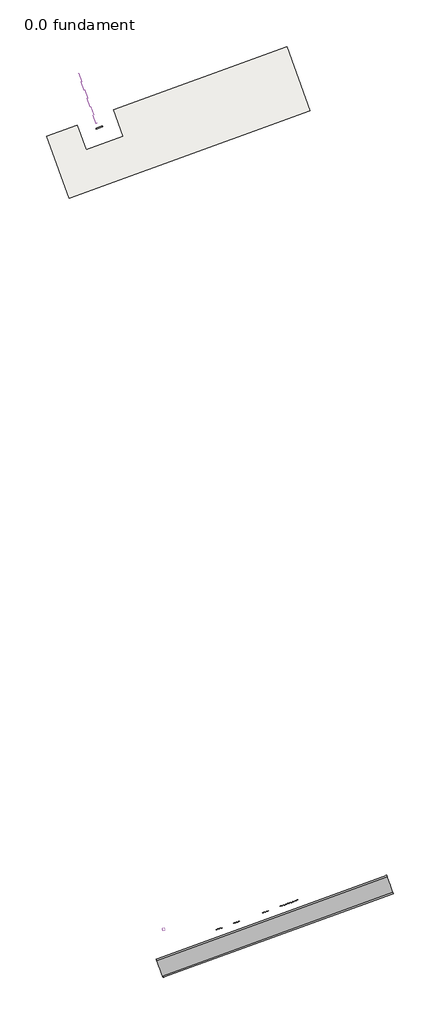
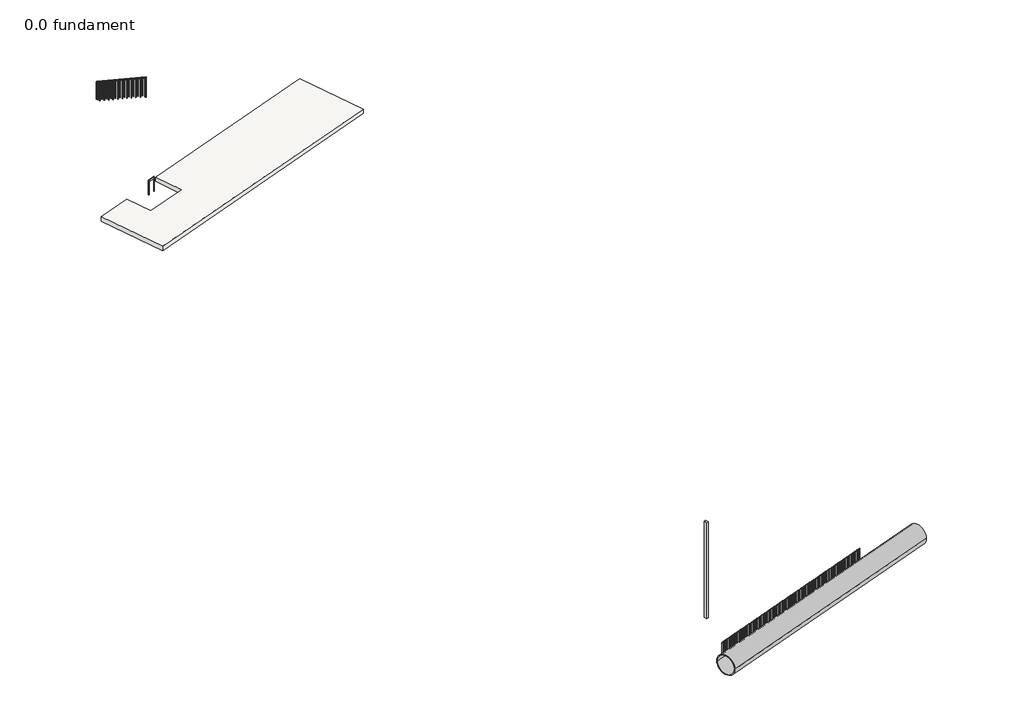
# One storey: 28 dampers, 2 railings, 1 slab, 1 valve, 1 wall.
"""IFC4 building model written with IfcOpenShell, lengths in millimetres."""

from ifc_helpers import new_model, si_unit, frame, origin, place, context, project, spatial, polyline, outline, extrude, faceted_brep, transform, mapped, element, save
from components import damper_041ec83c, railing_1100mm_exotic_green_232f5d4f, railing_2_3b7484bf, valve_04df82be

model = new_model("IFC4")

# Units and contexts
model_context = context("Model", 3, world=origin())
ifc_project = project(units=[si_unit("LENGTHUNIT", "METRE", prefix="MILLI")], contexts=[model_context])

# Site, building, storey
site = spatial("IfcSite", under=ifc_project)
building = spatial("IfcBuilding", under=site)
storey = spatial("IfcBuildingStorey", under=building, Name="0.0 fundament", Elevation=0.0)

# Dampers
placement = place(None, origin())
damper_shape = damper_041ec83c(model_context)
element("IfcDamper", 1, ObjectType="Spunt : Spunt", at=placement, inside=storey, context=model_context, shape_type="MappedRepresentation", body=[
    mapped(damper_shape, transform((68.4040287, -187.9385242, 0.0), x_axis=(1.0, 0.0, 0.0), y_axis=(0.0, 1.0, 0.0), z_axis=(0.0, 0.0, 1.0))),
])
element("IfcDamper", 2, ObjectType="Spunt1 : Spunt", at=placement, inside=storey, context=model_context, shape_type="MappedRepresentation", body=[
    mapped(damper_shape, transform((82954.9436784, -82568.9824304, 0.0), x_axis=(-1.0, 0.0, 0.0), y_axis=(0.0, -1.0, 0.0), z_axis=(0.0, 0.0, 1.0))),
])
element("IfcDamper", 3, ObjectType="Spunt2 : Spunt", at=placement, inside=storey, context=model_context, shape_type="MappedRepresentation", body=[
    mapped(damper_shape, transform((814.1529247, 83.4918762, 0.0), x_axis=(1.0, 0.0, 0.0), y_axis=(0.0, 1.0, 0.0), z_axis=(0.0, 0.0, 1.0))),
])
element("IfcDamper", 4, ObjectType="Spunt3 : Spunt", at=placement, inside=storey, context=model_context, shape_type="MappedRepresentation", body=[
    mapped(damper_shape, transform((83700.6925744, -82297.55203, 0.0), x_axis=(-1.0, 0.0, 0.0), y_axis=(0.0, -1.0, 0.0), z_axis=(0.0, 0.0, 1.0))),
])
element("IfcDamper", 5, ObjectType="Spunt4 : Spunt", at=placement, inside=storey, context=model_context, shape_type="MappedRepresentation", body=[
    mapped(damper_shape, transform((1551.811632, 351.9776888, 0.0), x_axis=(1.0, 0.0, 0.0), y_axis=(0.0, 1.0, 0.0), z_axis=(0.0, 0.0, 1.0))),
])
element("IfcDamper", 6, ObjectType="Spunt5 : Spunt", at=placement, inside=storey, context=model_context, shape_type="MappedRepresentation", body=[
    mapped(damper_shape, transform((84438.3512817, -82029.0662174, 0.0), x_axis=(-1.0, 0.0, 0.0), y_axis=(0.0, -1.0, 0.0), z_axis=(0.0, 0.0, 1.0))),
])
element("IfcDamper", 7, ObjectType="Spunt6 : Spunt", at=placement, inside=storey, context=model_context, shape_type="MappedRepresentation", body=[
    mapped(damper_shape, transform((2297.5605281, 623.4080892, 0.0), x_axis=(1.0, 0.0, 0.0), y_axis=(0.0, 1.0, 0.0), z_axis=(0.0, 0.0, 1.0))),
])
element("IfcDamper", 8, ObjectType="Spunt7 : Spunt", at=placement, inside=storey, context=model_context, shape_type="MappedRepresentation", body=[
    mapped(damper_shape, transform((85184.1001778, -81757.635817, 0.0), x_axis=(-1.0, 0.0, 0.0), y_axis=(0.0, -1.0, 0.0), z_axis=(0.0, 0.0, 1.0))),
])
element("IfcDamper", 9, ObjectType="Spunt8 : Spunt", at=placement, inside=storey, context=model_context, shape_type="MappedRepresentation", body=[
    mapped(damper_shape, transform((3043.3094241, 894.8384895, 0.0), x_axis=(1.0, 0.0, 0.0), y_axis=(0.0, 1.0, 0.0), z_axis=(0.0, 0.0, 1.0))),
])
element("IfcDamper", 10, ObjectType="Spunt9 : Spunt", at=placement, inside=storey, context=model_context, shape_type="MappedRepresentation", body=[
    mapped(damper_shape, transform((85929.8490738, -81486.2054166, 0.0), x_axis=(-1.0, 0.0, 0.0), y_axis=(0.0, -1.0, 0.0), z_axis=(0.0, 0.0, 1.0))),
])
element("IfcDamper", 11, ObjectType="Spunt10 : Spunt", at=placement, inside=storey, context=model_context, shape_type="MappedRepresentation", body=[
    mapped(damper_shape, transform((3757.4758159, 1154.7737985, 0.0), x_axis=(1.0, 0.0, 0.0), y_axis=(0.0, 1.0, 0.0), z_axis=(0.0, 0.0, 1.0))),
])
element("IfcDamper", 12, ObjectType="Spunt11 : Spunt", at=placement, inside=storey, context=model_context, shape_type="MappedRepresentation", body=[
    mapped(damper_shape, transform((86644.0154656, -81226.2701077, 0.0), x_axis=(-1.0, 0.0, 0.0), y_axis=(0.0, -1.0, 0.0), z_axis=(0.0, 0.0, 1.0))),
])
element("IfcDamper", 13, ObjectType="Spunt12 : Spunt", at=placement, inside=storey, context=model_context, shape_type="MappedRepresentation", body=[
    mapped(damper_shape, transform((4471.6422077, 1414.7091074, 0.0), x_axis=(1.0, 0.0, 0.0), y_axis=(0.0, 1.0, 0.0), z_axis=(0.0, 0.0, 1.0))),
])
element("IfcDamper", 14, ObjectType="Spunt13 : Spunt", at=placement, inside=storey, context=model_context, shape_type="MappedRepresentation", body=[
    mapped(damper_shape, transform((87358.1818574, -80966.3347988, 0.0), x_axis=(-1.0, 0.0, 0.0), y_axis=(0.0, -1.0, 0.0), z_axis=(0.0, 0.0, 1.0))),
])
element("IfcDamper", 15, ObjectType="Spunt14 : Spunt", at=placement, inside=storey, context=model_context, shape_type="MappedRepresentation", body=[
    mapped(damper_shape, transform((5204.6024519, 1681.4848192, 0.0), x_axis=(1.0, 0.0, 0.0), y_axis=(0.0, 1.0, 0.0), z_axis=(0.0, 0.0, 1.0))),
])
element("IfcDamper", 16, ObjectType="Spunt15 : Spunt", at=placement, inside=storey, context=model_context, shape_type="MappedRepresentation", body=[
    mapped(damper_shape, transform((88091.1421016, -80699.559087, 0.0), x_axis=(-1.0, 0.0, 0.0), y_axis=(0.0, -1.0, 0.0), z_axis=(0.0, 0.0, 1.0))),
])
element("IfcDamper", 17, ObjectType="Spunt16 : Spunt", at=placement, inside=storey, context=model_context, shape_type="MappedRepresentation", body=[
    mapped(damper_shape, transform((5918.7688437, 1941.4201281, 0.0), x_axis=(1.0, 0.0, 0.0), y_axis=(0.0, 1.0, 0.0), z_axis=(0.0, 0.0, 1.0))),
])
element("IfcDamper", 18, ObjectType="Spunt17 : Spunt", at=placement, inside=storey, context=model_context, shape_type="MappedRepresentation", body=[
    mapped(damper_shape, transform((88805.3084934, -80439.6237781, 0.0), x_axis=(-1.0, 0.0, 0.0), y_axis=(0.0, -1.0, 0.0), z_axis=(0.0, 0.0, 1.0))),
])
element("IfcDamper", 19, ObjectType="Spunt18 : Spunt", at=placement, inside=storey, context=model_context, shape_type="MappedRepresentation", body=[
    mapped(damper_shape, transform((6651.7290879, 2208.1958399, 0.0), x_axis=(1.0, 0.0, 0.0), y_axis=(0.0, 1.0, 0.0), z_axis=(0.0, 0.0, 1.0))),
])
element("IfcDamper", 20, ObjectType="Spunt19 : Spunt", at=placement, inside=storey, context=model_context, shape_type="MappedRepresentation", body=[
    mapped(damper_shape, transform((89538.2687376, -80172.8480663, 0.0), x_axis=(-1.0, 0.0, 0.0), y_axis=(0.0, -1.0, 0.0), z_axis=(0.0, 0.0, 1.0))),
])
element("IfcDamper", 21, ObjectType="Spunt20 : Spunt", at=placement, inside=storey, context=model_context, shape_type="MappedRepresentation", body=[
    mapped(damper_shape, transform((7384.6893322, 2474.9715517, 0.0), x_axis=(1.0, 0.0, 0.0), y_axis=(0.0, 1.0, 0.0), z_axis=(0.0, 0.0, 1.0))),
])
element("IfcDamper", 22, ObjectType="Spunt21 : Spunt", at=placement, inside=storey, context=model_context, shape_type="MappedRepresentation", body=[
    mapped(damper_shape, transform((90271.2289819, -79906.0723545, 0.0), x_axis=(-1.0, 0.0, 0.0), y_axis=(0.0, -1.0, 0.0), z_axis=(0.0, 0.0, 1.0))),
])
element("IfcDamper", 23, ObjectType="Spunt22 : Spunt", at=placement, inside=storey, context=model_context, shape_type="MappedRepresentation", body=[
    mapped(damper_shape, transform((8122.3480395, 2743.4573642, 0.0), x_axis=(1.0, 0.0, 0.0), y_axis=(0.0, 1.0, 0.0), z_axis=(0.0, 0.0, 1.0))),
])
element("IfcDamper", 24, ObjectType="Spunt23 : Spunt", at=placement, inside=storey, context=model_context, shape_type="MappedRepresentation", body=[
    mapped(damper_shape, transform((91008.8876892, -79637.586542, 0.0), x_axis=(-1.0, 0.0, 0.0), y_axis=(0.0, -1.0, 0.0), z_axis=(0.0, 0.0, 1.0))),
])
element("IfcDamper", 25, ObjectType="Spunt24 : Spunt", at=placement, inside=storey, context=model_context, shape_type="MappedRepresentation", body=[
    mapped(damper_shape, transform((8855.3082837, 3010.233076, 0.0), x_axis=(1.0, 0.0, 0.0), y_axis=(0.0, 1.0, 0.0), z_axis=(0.0, 0.0, 1.0))),
])
element("IfcDamper", 26, ObjectType="Spunt25 : Spunt", at=placement, inside=storey, context=model_context, shape_type="MappedRepresentation", body=[
    mapped(damper_shape, transform((91741.8479334, -79370.8108302, 0.0), x_axis=(-1.0, 0.0, 0.0), y_axis=(0.0, -1.0, 0.0), z_axis=(0.0, 0.0, 1.0))),
])
element("IfcDamper", 27, ObjectType="Spunt26 : Spunt", at=placement, inside=storey, context=model_context, shape_type="MappedRepresentation", body=[
    mapped(damper_shape, transform((9588.2685279, 3277.0087878, 0.0), x_axis=(1.0, 0.0, 0.0), y_axis=(0.0, 1.0, 0.0), z_axis=(0.0, 0.0, 1.0))),
])
element("IfcDamper", 28, ObjectType="Spunt27 : Spunt", at=placement, inside=storey, context=model_context, shape_type="MappedRepresentation", body=[
    mapped(damper_shape, transform((92474.8081776, -79104.0351184, 0.0), x_axis=(-1.0, 0.0, 0.0), y_axis=(0.0, -1.0, 0.0), z_axis=(0.0, 0.0, 1.0))),
])

# Railings
railing_1100mm_exotic_green_shape = railing_1100mm_exotic_green_232f5d4f(model_context)
element("IfcRailing", 29, ObjectType="1100mm Exotic green", at=placement, inside=storey, context=model_context, shape_type="MappedRepresentation", body=[
    mapped(railing_1100mm_exotic_green_shape, transform((0.0, 0.0, 0.0), x_axis=(1.0, 0.0, 0.0), y_axis=(0.0, 1.0, 0.0), z_axis=(0.0, 0.0, 1.0))),
])
railing_2_shape = railing_2_3b7484bf(model_context)
element("IfcRailing", 30, ObjectType="Railing 2", at=placement, inside=storey, context=model_context, shape_type="MappedRepresentation", body=[
    mapped(railing_2_shape, transform((0.0, 0.0, 0.0), x_axis=(1.0, 0.0, 0.0), y_axis=(0.0, 1.0, 0.0), z_axis=(0.0, 0.0, 1.0))),
])

# Slab
element("IfcSlab", 31, ObjectType="Dekker Betong 70 Isolert 200mm", at=placement, inside=storey, context=model_context, shape_type="SweptSolid", body=[
    extrude(outline(polyline([(35503.1596855, 9400.4036481), (36053.271656, 7888.9830929), (38366.9625657, 8725.9896442), (37771.9503531, 10370.0013974), (48507.7474593, 14277.5216881), (49950.5628493, 10313.4288273), (34998.1737075, 4871.1907346), (33601.5851002, 8708.2872556), (35503.1596855, 9400.4036481)])), frame((0.0, 0.0, -270.0), z_axis=(0.0, 0.0, 1.0), x_axis=(1.0, 0.0, 0.0)), (0.0, 0.0, 1.0), 270.0),
])

# Valve
valve_shape = valve_04df82be(model_context)
element("IfcValve", 32, ObjectType="Svalbardrør : Svalbardrør", at=placement, inside=storey, context=model_context, shape_type="MappedRepresentation", body=[
    mapped(valve_shape, transform((-196.4932511, 539.8607704, 0.0), x_axis=(1.0, 0.0, 0.0), y_axis=(0.0, 1.0, 0.0), z_axis=(0.0, 0.0, 1.0))),
])

# Wall
element("IfcWall", 33, ObjectType="Yttervegg tegl halvstein", at=placement, inside=storey, context=model_context, shape_type="Brep", body=[
    faceted_brep([(40940.2657205, -40458.7139904, 8270.0), (40940.2657205, -40458.7139904, 2300.0), (40879.0441148, -40290.5090112, 2300.0), (40879.0441148, -40290.5090112, 8270.0), (40838.7789174, -40495.6521658, 2300.0), (40838.7789174, -40495.6521658, 6020.0), (40838.7789174, -40495.6521658, 8270.0), (40777.5573118, -40327.4471867, 8270.0), (40777.5573118, -40327.4471867, 2300.0)], [[[0, 1, 2, 3]], [[4, 5, 6, 7, 8]], [[2, 1, 4, 8]], [[0, 3, 7, 6]], [[2, 8, 7, 3]], [[0, 6, 5, 4, 1]]]),
])

save(model, "model.ifc")
